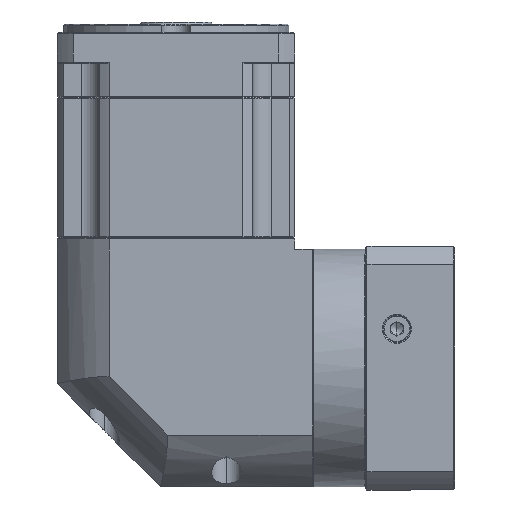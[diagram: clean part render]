
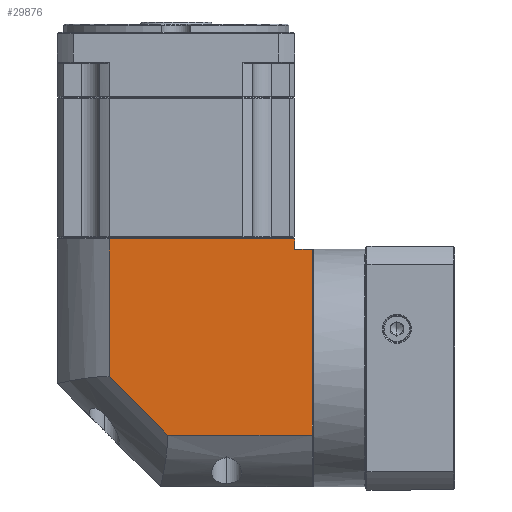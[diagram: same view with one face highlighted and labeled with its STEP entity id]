
A CAD part, left-side view. The second image highlights one B-rep face of the part: STEP entity #29876.
In plain terms, the highlighted planar face has unit normal (-1, 0, 0).
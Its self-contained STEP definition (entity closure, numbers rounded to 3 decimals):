
#654 = EDGE_CURVE ( 'NONE', #94877, #50892, #90418, .T. ) ;
#3616 = CARTESIAN_POINT ( 'NONE',  ( -284.014, -98.832, -92.618 ) ) ;
#4322 = CARTESIAN_POINT ( 'NONE',  ( -284.014, -98.832, 22.382 ) ) ;
#7599 = VECTOR ( 'NONE', #22624, 1000. ) ;
#10812 = EDGE_CURVE ( 'NONE', #134826, #48524, #152740, .T. ) ;
#11951 = VERTEX_POINT ( 'NONE', #15909 ) ;
#13542 = CARTESIAN_POINT ( 'NONE',  ( -284.014, 16.168, 27.382 ) ) ;
#15909 = CARTESIAN_POINT ( 'NONE',  ( -284.014, -98.832, 22.382 ) ) ;
#17397 = DIRECTION ( 'NONE',  ( 0., 1., 0. ) ) ;
#19834 = CARTESIAN_POINT ( 'NONE',  ( -284.014, -8.932, 33.882 ) ) ;
#20608 = CARTESIAN_POINT ( 'NONE',  ( -284.014, -8.932, -39.18 ) ) ;
#21353 = VECTOR ( 'NONE', #35931, 1000. ) ;
#21380 = EDGE_CURVE ( 'NONE', #151669, #134826, #141697, .T. ) ;
#22624 = DIRECTION ( 'NONE',  ( 0., 0., 1. ) ) ;
#23367 = CARTESIAN_POINT ( 'NONE',  ( -284.014, -37.27, -67.518 ) ) ;
#29876 = ADVANCED_FACE ( 'NONE', ( #107702 ), #73654, .F. ) ;
#30185 = EDGE_CURVE ( 'NONE', #50892, #100808, #68908, .T. ) ;
#30318 = DIRECTION ( 'NONE',  ( 0., 0., 1. ) ) ;
#32203 = VECTOR ( 'NONE', #17397, 1000. ) ;
#35343 = DIRECTION ( 'NONE',  ( 0., 0.707, 0.707 ) ) ;
#35931 = DIRECTION ( 'NONE',  ( 0., 0., -1. ) ) ;
#36296 = LINE ( 'NONE', #4322, #32203 ) ;
#36783 = ORIENTED_EDGE ( 'NONE', *, *, #654, .F. ) ;
#41749 = DIRECTION ( 'NONE',  ( 0., 1., 0. ) ) ;
#48524 = VERTEX_POINT ( 'NONE', #164969 ) ;
#50892 = VERTEX_POINT ( 'NONE', #150342 ) ;
#52730 = DIRECTION ( 'NONE',  ( 0., -1., 0. ) ) ;
#55971 = VECTOR ( 'NONE', #35343, 1000. ) ;
#60028 = EDGE_CURVE ( 'NONE', #11951, #48524, #155294, .T. ) ;
#61179 = DIRECTION ( 'NONE',  ( 1., 0., 0. ) ) ;
#62082 = CARTESIAN_POINT ( 'NONE',  ( -284.014, -107.232, 33.882 ) ) ;
#63739 = EDGE_CURVE ( 'NONE', #100808, #151669, #86397, .T. ) ;
#68908 = LINE ( 'NONE', #118895, #168315 ) ;
#73654 = PLANE ( 'NONE',  #77072 ) ;
#77072 = AXIS2_PLACEMENT_3D ( 'NONE', #138904, #61179, #151880 ) ;
#83145 = ORIENTED_EDGE ( 'NONE', *, *, #30185, .F. ) ;
#86397 = LINE ( 'NONE', #23367, #55971 ) ;
#90418 = LINE ( 'NONE', #62082, #21353 ) ;
#94877 = VERTEX_POINT ( 'NONE', #121361 ) ;
#100808 = VERTEX_POINT ( 'NONE', #118599 ) ;
#107702 = FACE_OUTER_BOUND ( 'NONE', #126394, .T. ) ;
#109367 = ORIENTED_EDGE ( 'NONE', *, *, #132147, .T. ) ;
#112765 = VECTOR ( 'NONE', #30318, 1000. ) ;
#114124 = ORIENTED_EDGE ( 'NONE', *, *, #60028, .T. ) ;
#118599 = CARTESIAN_POINT ( 'NONE',  ( -284.014, -37.27, -67.518 ) ) ;
#118895 = CARTESIAN_POINT ( 'NONE',  ( -284.014, 16.168, -67.518 ) ) ;
#121361 = CARTESIAN_POINT ( 'NONE',  ( -284.014, -107.232, 22.382 ) ) ;
#126394 = EDGE_LOOP ( 'NONE', ( #162800, #166620, #83145, #36783, #109367, #114124, #128405 ) ) ;
#128405 = ORIENTED_EDGE ( 'NONE', *, *, #10812, .F. ) ;
#132147 = EDGE_CURVE ( 'NONE', #94877, #11951, #36296, .T. ) ;
#134826 = VERTEX_POINT ( 'NONE', #160550 ) ;
#138904 = CARTESIAN_POINT ( 'NONE',  ( -284.014, 16.168, 33.882 ) ) ;
#141697 = LINE ( 'NONE', #19834, #7599 ) ;
#148674 = VECTOR ( 'NONE', #52730, 1000. ) ;
#150342 = CARTESIAN_POINT ( 'NONE',  ( -284.014, -107.232, -67.518 ) ) ;
#151669 = VERTEX_POINT ( 'NONE', #20608 ) ;
#151880 = DIRECTION ( 'NONE',  ( 0., 1., 0. ) ) ;
#152740 = LINE ( 'NONE', #13542, #148674 ) ;
#155294 = LINE ( 'NONE', #3616, #112765 ) ;
#160550 = CARTESIAN_POINT ( 'NONE',  ( -284.014, -8.932, 27.382 ) ) ;
#162800 = ORIENTED_EDGE ( 'NONE', *, *, #21380, .F. ) ;
#164969 = CARTESIAN_POINT ( 'NONE',  ( -284.014, -98.832, 27.382 ) ) ;
#166620 = ORIENTED_EDGE ( 'NONE', *, *, #63739, .F. ) ;
#168315 = VECTOR ( 'NONE', #41749, 1000. ) ;
